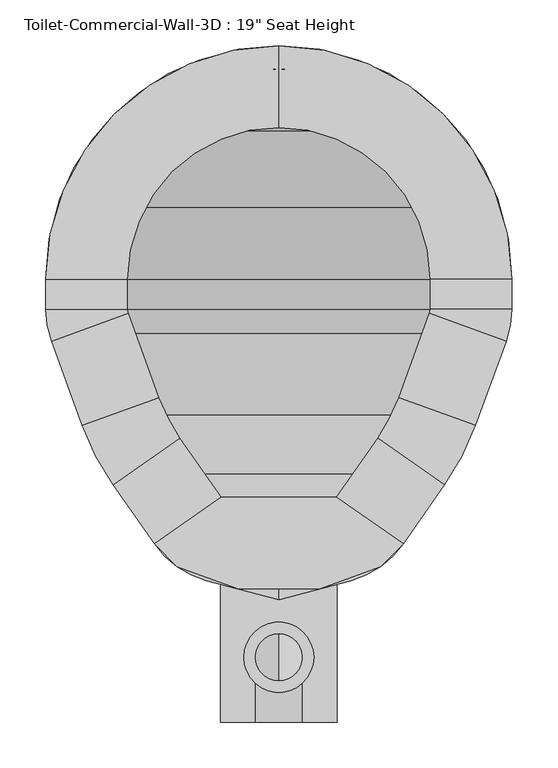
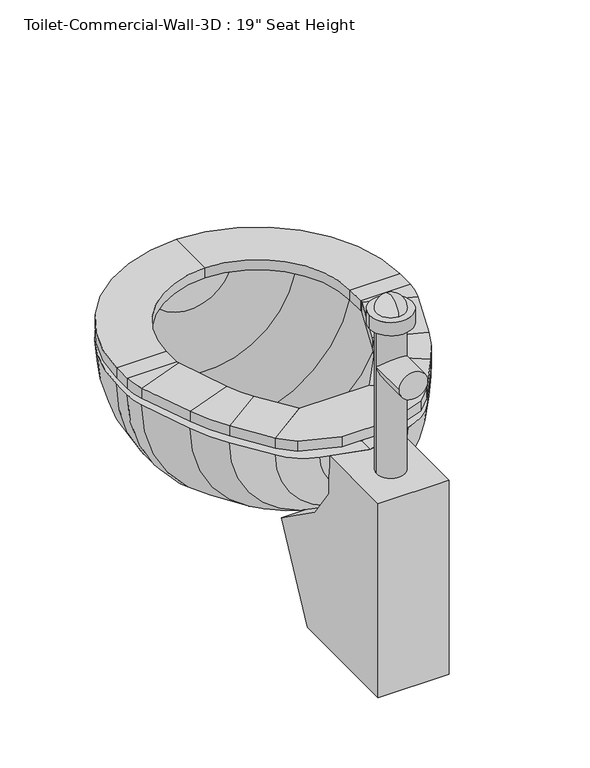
"""IFC4 building model written with IfcOpenShell, lengths in millimetres: flow terminal geometry."""

from ifc_helpers import new_model, si_unit, point, frame, frame_2d, origin, place, context, project, spatial, polyline, circle_curve, ellipse_curve, trimmed, segment, composite_curve, outline, extrude, source, transform, mapped, element, save
from ifc_brep_helpers import plane_surface, cylinder_surface, revolved_surface, advanced_brep


def flow_terminal_48090491(model_context):
    return source(origin(), model_context, "Body", "SolidModel", [
        extrude(outline(polyline([(467.7541169, 245.0347495), (540.5767337, 194.0438043), (515.6262519, 169.0933226), (449.563909, 145.0485961), (360.2423986, 145.0485961), (294.1800557, 169.0933226), (269.229574, 194.0438043), (342.0521907, 245.0347495), (467.7541169, 245.0347495)])), frame((0.0, 0.0, 457.2), z_axis=(0.0, 0.0, 1.0), x_axis=(1.0, 0.0, 0.0)), (0.0, 0.0, 1.0), 19.05),
        advanced_brep(
        [(467.7541169, 245.0347495, 457.2), (540.5767337, 194.0438043, 457.2), (540.5767337, 194.0438043, 476.25), (467.7541169, 245.0347495, 476.25), (512.8583992, 309.4503403, 457.2), (585.6810159, 258.4593951, 457.2), (585.6810159, 258.4593951, 476.25), (512.8583992, 309.4503403, 476.25), (619.360053, 323.1562234, 457.2), (535.821379, 353.5618141, 457.2), (619.360053, 323.1562234, 476.25), (535.821379, 353.5618141, 476.25), (569.2372501, 445.3711654, 457.2), (652.7759241, 414.9655747, 457.2), (652.7759241, 414.9655747, 476.25), (569.2372501, 445.3711654, 476.25), (658.9031538, 449.7148212, 457.2), (570.0031538, 449.7148212, 457.2), (658.9031538, 449.7148212, 476.25), (570.0031538, 449.7148212, 476.25), (570.0031538, 482.6, 457.2), (658.9031538, 482.6, 457.2), (658.9031538, 482.6, 476.25), (570.0031538, 482.6, 476.25), (404.9031538, 736.6, 457.2), (404.9031538, 647.7, 457.2), (404.9031538, 736.6, 476.25), (404.9031538, 647.7, 476.25), (150.9031538, 482.6, 457.2), (239.8031538, 482.6, 457.2), (150.9031538, 482.6, 476.25), (239.8031538, 482.6, 476.25), (239.8031538, 449.7148212, 457.2), (150.9031538, 449.7148212, 457.2), (150.9031538, 449.7148212, 476.25), (239.8031538, 449.7148212, 476.25), (157.0303835, 414.9655747, 457.2), (240.5690575, 445.3711654, 457.2), (157.0303835, 414.9655747, 476.25), (240.5690575, 445.3711654, 476.25), (273.9849286, 353.5618141, 457.2), (190.4462546, 323.1562234, 457.2), (190.4462546, 323.1562234, 476.25), (273.9849286, 353.5618141, 476.25), (224.1252917, 258.4593951, 457.2), (296.9479084, 309.4503403, 457.2), (224.1252917, 258.4593951, 476.25), (296.9479084, 309.4503403, 476.25), (342.0521907, 245.0347495, 457.2), (342.0521907, 245.0347495, 476.25), (269.229574, 194.0438043, 476.25), (269.229574, 194.0438043, 457.2)],
        [
            (0, 1),
            (1, 2),
            (2, 3),
            (3, 0),
            (0, 4),
            (4, 5),
            (5, 1),
            (5, 6),
            (6, 2),
            (6, 7),
            (7, 3),
            (7, 4),
            (8, 5, circle_curve(frame((356.8099347, 418.7166514, 457.2), z_axis=(0.0, 0.0, -1.0), x_axis=(0.81915204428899, -0.5735764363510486, 0.0)), 279.4)),
            (4, 9, circle_curve(frame((356.8099347, 418.7166514, 457.2), z_axis=(0.0, 0.0, 1.0), x_axis=(0.81915204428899, -0.5735764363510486, 0.0)), 190.5)),
            (9, 8),
            (10, 6, circle_curve(frame((356.8099347, 418.7166514, 476.25), z_axis=(0.0, 0.0, -1.0), x_axis=(0.81915204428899, -0.5735764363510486, 0.0)), 279.4)),
            (8, 10),
            (11, 7, circle_curve(frame((356.8099347, 418.7166514, 476.25), z_axis=(0.0, 0.0, -1.0), x_axis=(0.81915204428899, -0.5735764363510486, 0.0)), 190.5)),
            (10, 11),
            (11, 9),
            (9, 12),
            (12, 13),
            (13, 8),
            (13, 14),
            (14, 10),
            (14, 15),
            (15, 11),
            (15, 12),
            (16, 13, circle_curve(frame((557.3031538, 449.7148212, 457.2), z_axis=(0.0, 0.0, -1.0), x_axis=(0.9396926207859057, -0.3420201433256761, 0.0)), 101.6)),
            (12, 17, circle_curve(frame((557.3031538, 449.7148212, 457.2), z_axis=(0.0, 0.0, 1.0), x_axis=(0.9396926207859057, -0.3420201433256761, 0.0)), 12.7)),
            (17, 16),
            (18, 14, circle_curve(frame((557.3031538, 449.7148212, 476.25), z_axis=(0.0, 0.0, -1.0), x_axis=(0.9396926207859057, -0.3420201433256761, 0.0)), 101.6)),
            (16, 18),
            (19, 15, circle_curve(frame((557.3031538, 449.7148212, 476.25), z_axis=(0.0, 0.0, -1.0), x_axis=(0.9396926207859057, -0.3420201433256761, 0.0)), 12.7)),
            (18, 19),
            (19, 17),
            (17, 20),
            (20, 21),
            (21, 16),
            (21, 22),
            (22, 18),
            (22, 23),
            (23, 19),
            (23, 20),
            (24, 21, circle_curve(frame((404.9031538, 482.6, 457.2), z_axis=(0.0, 0.0, -1.0), x_axis=(1.0, 0.0, 0.0)), 254.0)),
            (20, 25, circle_curve(frame((404.9031538, 482.6, 457.2), z_axis=(0.0, 0.0, 1.0), x_axis=(1.0, 0.0, 0.0)), 165.1)),
            (25, 24),
            (26, 22, circle_curve(frame((404.9031538, 482.6, 476.25), z_axis=(0.0, 0.0, -1.0), x_axis=(1.0, 0.0, 0.0)), 254.0)),
            (24, 26),
            (27, 23, circle_curve(frame((404.9031538, 482.6, 476.25), z_axis=(0.0, 0.0, -1.0), x_axis=(1.0, 0.0, 0.0)), 165.1)),
            (26, 27),
            (27, 25),
            (28, 24, circle_curve(frame((404.9031538, 482.6, 457.2), z_axis=(0.0, 0.0, -1.0), x_axis=(0.0, 1.0, 0.0)), 254.0)),
            (25, 29, circle_curve(frame((404.9031538, 482.6, 457.2), z_axis=(0.0, 0.0, 1.0), x_axis=(0.0, 1.0, 0.0)), 165.1)),
            (29, 28),
            (30, 26, circle_curve(frame((404.9031538, 482.6, 476.25), z_axis=(0.0, 0.0, -1.0), x_axis=(0.0, 1.0, 0.0)), 254.0)),
            (28, 30),
            (31, 27, circle_curve(frame((404.9031538, 482.6, 476.25), z_axis=(0.0, 0.0, -1.0), x_axis=(0.0, 1.0, 0.0)), 165.1)),
            (30, 31),
            (31, 29),
            (29, 32),
            (32, 33),
            (33, 28),
            (33, 34),
            (34, 30),
            (34, 35),
            (35, 31),
            (35, 32),
            (36, 33, circle_curve(frame((252.5031538, 449.7148212, 457.2), z_axis=(0.0, 0.0, -1.0), x_axis=(-1.0, 0.0, 0.0)), 101.6)),
            (32, 37, circle_curve(frame((252.5031538, 449.7148212, 457.2), z_axis=(0.0, 0.0, 1.0), x_axis=(-1.0, 0.0, 0.0)), 12.7)),
            (37, 36),
            (38, 34, circle_curve(frame((252.5031538, 449.7148212, 476.25), z_axis=(0.0, 0.0, -1.0), x_axis=(-1.0, 0.0, 0.0)), 101.6)),
            (36, 38),
            (39, 35, circle_curve(frame((252.5031538, 449.7148212, 476.25), z_axis=(0.0, 0.0, -1.0), x_axis=(-1.0, 0.0, 0.0)), 12.7)),
            (38, 39),
            (39, 37),
            (37, 40),
            (40, 41),
            (41, 36),
            (41, 42),
            (42, 38),
            (42, 43),
            (43, 39),
            (43, 40),
            (44, 41, circle_curve(frame((452.9963729, 418.7166514, 457.2), z_axis=(0.0, 0.0, -1.0), x_axis=(-0.939692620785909, -0.3420201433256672, 0.0)), 279.4)),
            (40, 45, circle_curve(frame((452.9963729, 418.7166514, 457.2), z_axis=(0.0, 0.0, 1.0), x_axis=(-0.939692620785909, -0.3420201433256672, 0.0)), 190.5)),
            (45, 44),
            (46, 42, circle_curve(frame((452.9963729, 418.7166514, 476.25), z_axis=(0.0, 0.0, -1.0), x_axis=(-0.939692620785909, -0.3420201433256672, 0.0)), 279.4)),
            (44, 46),
            (47, 43, circle_curve(frame((452.9963729, 418.7166514, 476.25), z_axis=(0.0, 0.0, -1.0), x_axis=(-0.939692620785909, -0.3420201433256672, 0.0)), 190.5)),
            (46, 47),
            (47, 45),
            (48, 49),
            (49, 50),
            (50, 51),
            (51, 48),
            (45, 48),
            (51, 44),
            (50, 46),
            (49, 47),
        ],
        [
            plane_surface(frame((540.5767337, 194.0438043, 538.8995365), z_axis=(-0.5735764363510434, -0.8191520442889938, 0.0), x_axis=(0.8191520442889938, -0.5735764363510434, 0.0))),
            plane_surface(frame((467.7541169, 245.0347495, 457.2), z_axis=(0.0, 0.0, -1.0), x_axis=(0.5735764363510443, 0.8191520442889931, 0.0))),
            plane_surface(frame((540.5767337, 194.0438043, 457.2), z_axis=(0.8191520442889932, -0.5735764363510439, 0.0), x_axis=(0.5735764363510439, 0.8191520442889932, 0.0))),
            plane_surface(frame((540.5767337, 194.0438043, 476.25), z_axis=(0.0, 0.0, 1.0), x_axis=(0.5735764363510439, 0.8191520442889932, 0.0))),
            plane_surface(frame((467.7541169, 245.0347495, 476.25), z_axis=(-0.8191520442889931, 0.5735764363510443, 0.0), x_axis=(0.5735764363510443, 0.8191520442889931, 0.0))),
            plane_surface(frame((356.8099347, 418.7166514, 457.2), z_axis=(0.0, 0.0, -1.0), x_axis=(0.81915204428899, -0.5735764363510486, 0.0))),
            cylinder_surface(frame((356.8099347, 418.7166514, 444.5), z_axis=(0.0, 0.0, 1.0), x_axis=(0.81915204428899, -0.5735764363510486, 0.0)), 279.4),
            plane_surface(frame((356.8099347, 418.7166514, 476.25), z_axis=(0.0, 0.0, 1.0), x_axis=(0.81915204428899, -0.5735764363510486, 0.0))),
            revolved_surface(polyline([(512.8583991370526, 309.4503402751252, 476.25), (512.8583991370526, 309.4503402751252, 457.2)]), (356.8099347, 418.7166514, 444.5), (0.0, 0.0, 1.0)),
            plane_surface(frame((535.821379, 353.5618141, 457.2), z_axis=(0.0, 0.0, -1.0), x_axis=(0.34202014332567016, 0.9396926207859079, 0.0))),
            plane_surface(frame((619.360053, 323.1562234, 457.2), z_axis=(0.9396926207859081, -0.3420201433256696, 0.0), x_axis=(0.3420201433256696, 0.9396926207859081, 0.0))),
            plane_surface(frame((619.360053, 323.1562234, 476.25), z_axis=(0.0, 0.0, 1.0), x_axis=(0.3420201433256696, 0.9396926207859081, 0.0))),
            plane_surface(frame((535.821379, 353.5618141, 476.25), z_axis=(-0.9396926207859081, 0.34202014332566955, 0.0), x_axis=(0.34202014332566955, 0.9396926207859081, 0.0))),
            plane_surface(frame((557.3031538, 449.7148212, 457.2), z_axis=(0.0, 0.0, -1.0000000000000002), x_axis=(0.9396926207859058, -0.34202014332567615, 0.0))),
            cylinder_surface(frame((557.3031538, 449.7148212, 444.5), z_axis=(0.0, 0.0, 1.0), x_axis=(0.9396926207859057, -0.3420201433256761, 0.0)), 101.6),
            plane_surface(frame((557.3031538, 449.7148212, 476.25), z_axis=(0.0, 0.0, 1.0000000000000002), x_axis=(0.9396926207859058, -0.34202014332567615, 0.0))),
            revolved_surface(polyline([(569.237250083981, 445.3711653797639, 476.25), (569.237250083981, 445.3711653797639, 457.2)]), (557.3031538, 449.7148212, 444.5), (0.0, 0.0, 1.0)),
            plane_surface(frame((570.0031538, 449.7148212, 457.2), z_axis=(0.0, 0.0, -1.0), x_axis=(0.0, 1.0, 0.0))),
            plane_surface(frame((658.9031538, 449.7148212, 457.2), z_axis=(1.0, 0.0, 0.0), x_axis=(0.0, 1.0, 0.0))),
            plane_surface(frame((658.9031538, 449.7148212, 476.25), z_axis=(0.0, 0.0, 1.0), x_axis=(0.0, 1.0, 0.0))),
            plane_surface(frame((570.0031538, 449.7148212, 476.25), z_axis=(-1.0, 0.0, 0.0), x_axis=(0.0, 1.0, 0.0))),
            plane_surface(frame((404.9031538, 482.6, 457.2), z_axis=(0.0, 0.0, -1.0), x_axis=(1.0, 0.0, 0.0))),
            cylinder_surface(frame((404.9031538, 482.6, 444.5), z_axis=(0.0, 0.0, 1.0), x_axis=(1.0, 0.0, 0.0)), 254.0),
            plane_surface(frame((404.9031538, 482.6, 476.25), z_axis=(0.0, 0.0, 1.0), x_axis=(1.0, 0.0, 0.0))),
            revolved_surface(polyline([(570.0031538, 482.6, 476.25), (570.0031538, 482.6, 457.2)]), (404.9031538, 482.6, 444.5), (0.0, 0.0, 1.0)),
            plane_surface(frame((404.9031538, 482.6, 457.2), z_axis=(0.0, 0.0, -1.0), x_axis=(0.0, 1.0, 0.0))),
            cylinder_surface(frame((404.9031538, 482.6, 444.5), z_axis=(0.0, 0.0, 1.0), x_axis=(0.0, 1.0, 0.0)), 254.0),
            plane_surface(frame((404.9031538, 482.6, 476.25), z_axis=(0.0, 0.0, 1.0), x_axis=(0.0, 1.0, 0.0))),
            revolved_surface(polyline([(404.9031538, 647.7, 476.25), (404.9031538, 647.7, 457.2)]), (404.9031538, 482.6, 444.5), (0.0, 0.0, 1.0)),
            plane_surface(frame((239.8031538, 482.6, 457.2), z_axis=(0.0, 0.0, -1.0), x_axis=(0.0, -1.0, 0.0))),
            plane_surface(frame((150.9031538, 482.6, 457.2), z_axis=(-1.0, 0.0, 0.0), x_axis=(0.0, -1.0, 0.0))),
            plane_surface(frame((150.9031538, 482.6, 476.25), z_axis=(0.0, 0.0, 1.0), x_axis=(0.0, -1.0, 0.0))),
            plane_surface(frame((239.8031538, 482.6, 476.25), z_axis=(1.0, 0.0, 0.0), x_axis=(0.0, -1.0, 0.0))),
            plane_surface(frame((252.5031538, 449.7148212, 457.2), z_axis=(0.0, 0.0, -1.0), x_axis=(-1.0, 0.0, 0.0))),
            cylinder_surface(frame((252.5031538, 449.7148212, 444.5), z_axis=(0.0, 0.0, 1.0), x_axis=(-1.0, 0.0, 0.0)), 101.6),
            plane_surface(frame((252.5031538, 449.7148212, 476.25), z_axis=(0.0, 0.0, 1.0), x_axis=(-1.0, 0.0, 0.0))),
            revolved_surface(polyline([(239.80315380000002, 449.7148212, 476.25), (239.80315380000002, 449.7148212, 457.2)]), (252.5031538, 449.7148212, 444.5), (0.0, 0.0, 1.0)),
            plane_surface(frame((240.5690575, 445.3711654, 457.2), z_axis=(0.0, 0.0, -1.0000000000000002), x_axis=(0.3420201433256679, -0.9396926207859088, 0.0))),
            plane_surface(frame((157.0303835, 414.9655747, 457.2), z_axis=(-0.939692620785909, -0.34202014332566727, 0.0), x_axis=(0.34202014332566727, -0.939692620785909, 0.0))),
            plane_surface(frame((157.0303835, 414.9655747, 476.25), z_axis=(0.0, 0.0, 1.0000000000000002), x_axis=(0.34202014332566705, -0.9396926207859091, 0.0))),
            plane_surface(frame((240.5690575, 445.3711654, 476.25), z_axis=(0.9396926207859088, 0.3420201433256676, 0.0), x_axis=(0.3420201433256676, -0.9396926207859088, 0.0))),
            plane_surface(frame((452.9963729, 418.7166514, 457.2), z_axis=(0.0, 0.0, -1.0), x_axis=(-0.939692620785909, -0.3420201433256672, 0.0))),
            cylinder_surface(frame((452.9963729, 418.7166514, 444.5), z_axis=(0.0, 0.0, 1.0), x_axis=(-0.939692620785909, -0.3420201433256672, 0.0)), 279.4),
            plane_surface(frame((452.9963729, 418.7166514, 476.25), z_axis=(0.0, 0.0, 1.0), x_axis=(-0.939692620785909, -0.3420201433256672, 0.0))),
            revolved_surface(polyline([(273.98492864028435, 353.56181409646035, 476.25), (273.98492864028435, 353.56181409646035, 457.2)]), (452.9963729, 418.7166514, 444.5), (0.0, 0.0, 1.0)),
            plane_surface(frame((269.229574, 194.0438043, 350.1004635), z_axis=(0.5735764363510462, -0.8191520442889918, 0.0), x_axis=(0.8191520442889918, 0.5735764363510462, 0.0))),
            plane_surface(frame((296.9479084, 309.4503403, 457.2), z_axis=(0.0, 0.0, -1.0000000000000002), x_axis=(0.5735764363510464, -0.8191520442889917, 0.0))),
            plane_surface(frame((224.1252917, 258.4593951, 457.2), z_axis=(-0.8191520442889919, -0.5735764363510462, 0.0), x_axis=(0.5735764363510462, -0.8191520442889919, 0.0))),
            plane_surface(frame((224.1252917, 258.4593951, 476.25), z_axis=(0.0, 0.0, 1.0000000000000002), x_axis=(0.5735764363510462, -0.8191520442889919, 0.0))),
            plane_surface(frame((296.9479084, 309.4503403, 476.25), z_axis=(0.8191520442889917, 0.5735764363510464, 0.0), x_axis=(0.5735764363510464, -0.8191520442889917, 0.0))),
        ],
        [
            (0, [[1, 2, 3, 4]]),
            (1, [[-1, 5, 6, 7]]),
            (2, [[-2, -7, 8, 9]]),
            (3, [[-3, -9, 10, 11]]),
            (4, [[-4, -11, 12, -5]]),
            (5, [[13, -6, 14, 15]]),
            (6, [[16, -8, -13, 17]]),
            (7, [[18, -10, -16, 19]]),
            (8, [[-14, -12, -18, 20]]),
            (9, [[-15, 21, 22, 23]]),
            (10, [[-17, -23, 24, 25]]),
            (11, [[-19, -25, 26, 27]]),
            (12, [[-20, -27, 28, -21]]),
            (13, [[29, -22, 30, 31]]),
            (14, [[32, -24, -29, 33]]),
            (15, [[34, -26, -32, 35]]),
            (16, [[-30, -28, -34, 36]]),
            (17, [[-31, 37, 38, 39]]),
            (18, [[-33, -39, 40, 41]]),
            (19, [[-35, -41, 42, 43]]),
            (20, [[-36, -43, 44, -37]]),
            (21, [[45, -38, 46, 47]]),
            (22, [[48, -40, -45, 49]]),
            (23, [[50, -42, -48, 51]]),
            (24, [[-46, -44, -50, 52]]),
            (25, [[53, -47, 54, 55]]),
            (26, [[56, -49, -53, 57]]),
            (27, [[58, -51, -56, 59]]),
            (28, [[-54, -52, -58, 60]]),
            (29, [[-55, 61, 62, 63]]),
            (30, [[-57, -63, 64, 65]]),
            (31, [[-59, -65, 66, 67]]),
            (32, [[-60, -67, 68, -61]]),
            (33, [[69, -62, 70, 71]]),
            (34, [[72, -64, -69, 73]]),
            (35, [[74, -66, -72, 75]]),
            (36, [[-70, -68, -74, 76]]),
            (37, [[-71, 77, 78, 79]]),
            (38, [[-73, -79, 80, 81]]),
            (39, [[-75, -81, 82, 83]]),
            (40, [[-76, -83, 84, -77]]),
            (41, [[85, -78, 86, 87]]),
            (42, [[88, -80, -85, 89]]),
            (43, [[90, -82, -88, 91]]),
            (44, [[-86, -84, -90, 92]]),
            (45, [[93, 94, 95, 96]]),
            (46, [[-87, 97, -96, 98]]),
            (47, [[-89, -98, -95, 99]]),
            (48, [[-91, -99, -94, 100]]),
            (49, [[-92, -100, -93, -97]]),
        ],
    ),
        advanced_brep(
        [(491.7762702, 721.2819257, 444.5), (404.9031538, 736.6, 444.5), (404.9031538, 711.2, 444.5), (483.0889586, 697.4137331, 444.5), (566.547764, 644.2446102, 444.5), (619.7168869, 560.7858048, 444.5), (633.5031538, 482.6, 444.5), (633.5031538, 449.7148212, 444.5), (628.9077315, 423.6528863, 444.5), (596.6355667, 334.9858422, 444.5), (562.9565296, 270.2890139, 444.5), (525.0728964, 216.1855786, 444.5), (468.1430637, 176.3228806, 444.5), (404.9031538, 159.3777978, 444.5), (404.9031538, 133.0817829, 444.5), (483.6469009, 154.1811063, 444.5), (540.5767337, 194.0438043, 444.5), (585.6810159, 258.4593951, 444.5), (619.360053, 323.1562234, 444.5), (652.7759241, 414.9655747, 444.5), (658.9031538, 449.7148212, 444.5), (658.9031538, 482.6, 444.5), (643.5850795, 569.4731164, 444.5), (584.5082762, 662.2051224, 444.5), (318.0300374, 721.2819257, 444.5), (225.2980314, 662.2051224, 444.5), (166.2212281, 569.4731164, 444.5), (150.9031538, 482.6, 444.5), (150.9031538, 449.7148212, 444.5), (157.0303835, 414.9655747, 444.5), (190.4462546, 323.1562234, 444.5), (224.1252917, 258.4593951, 444.5), (269.229574, 194.0438043, 444.5), (326.1594067, 154.1811063, 444.5), (341.663244, 176.3228806, 444.5), (284.7334112, 216.1855786, 444.5), (246.849778, 270.2890139, 444.5), (213.1707409, 334.9858422, 444.5), (180.8985761, 423.6528863, 444.5), (176.3031538, 449.7148212, 444.5), (176.3031538, 482.6, 444.5), (190.0894207, 560.7858048, 444.5), (243.2585436, 644.2446102, 444.5), (326.7173491, 697.4137331, 444.5)],
        [
            (0, 1, circle_curve(frame((404.9031538, 482.6, 444.5), z_axis=(0.0, 0.0, 1.0), x_axis=(1.0, 0.0, 0.0)), 254.0)),
            (1, 2),
            (2, 3, circle_curve(frame((404.9031538, 482.6, 444.5), z_axis=(0.0, 0.0, -1.0), x_axis=(1.0, 0.0, 0.0)), 228.6)),
            (3, 4, circle_curve(frame((404.9031538, 482.6, 444.5), z_axis=(0.0, 0.0, -1.0), x_axis=(1.0, 0.0, 0.0)), 228.6)),
            (4, 5, circle_curve(frame((404.9031538, 482.6, 444.5), z_axis=(0.0, 0.0, -1.0), x_axis=(1.0, 0.0, 0.0)), 228.6)),
            (5, 6, circle_curve(frame((404.9031538, 482.6, 444.5), z_axis=(0.0, 0.0, -1.0), x_axis=(1.0, 0.0, 0.0)), 228.6)),
            (6, 7),
            (7, 8, circle_curve(frame((557.3031538, 449.7148212, 444.5), z_axis=(0.0, 0.0, -1.0), x_axis=(1.0, 0.0, 0.0)), 76.2)),
            (8, 9),
            (9, 10, circle_curve(frame((334.0854485, 430.5462703, 444.5), z_axis=(0.0, 0.0, -1.0), x_axis=(1.0, 0.0, 0.0)), 279.4)),
            (10, 11),
            (11, 12, circle_curve(frame((441.8470487, 274.4609446, 444.5), z_axis=(0.0, 0.0, -1.0), x_axis=(1.0, 0.0, 0.0)), 101.6)),
            (12, 13),
            (13, 14),
            (14, 15),
            (15, 16, circle_curve(frame((457.350886, 252.3191703, 444.5), z_axis=(0.0, 0.0, 1.0), x_axis=(1.0, 0.0, 0.0)), 101.6)),
            (16, 17),
            (17, 18, circle_curve(frame((356.8099347, 418.7166514, 444.5), z_axis=(0.0, 0.0, 1.0), x_axis=(1.0, 0.0, 0.0)), 279.4)),
            (18, 19),
            (19, 20, circle_curve(frame((557.3031538, 449.7148212, 444.5), z_axis=(0.0, 0.0, 1.0), x_axis=(1.0, 0.0, 0.0)), 101.6)),
            (20, 21),
            (21, 22, circle_curve(frame((404.9031538, 482.6, 444.5), z_axis=(0.0, 0.0, 1.0), x_axis=(1.0, 0.0, 0.0)), 254.0)),
            (22, 23, circle_curve(frame((404.9031538, 482.6, 444.5), z_axis=(0.0, 0.0, 1.0), x_axis=(1.0, 0.0, 0.0)), 254.0)),
            (23, 0, circle_curve(frame((404.9031538, 482.6, 444.5), z_axis=(0.0, 0.0, 1.0), x_axis=(1.0, 0.0, 0.0)), 254.0)),
            (24, 25, circle_curve(frame((404.9031538, 482.6, 444.5), z_axis=(0.0, 0.0, 1.0), x_axis=(-1.0, 0.0, 0.0)), 254.0)),
            (25, 26, circle_curve(frame((404.9031538, 482.6, 444.5), z_axis=(0.0, 0.0, 1.0), x_axis=(-1.0, 0.0, 0.0)), 254.0)),
            (26, 27, circle_curve(frame((404.9031538, 482.6, 444.5), z_axis=(0.0, 0.0, 1.0), x_axis=(-1.0, 0.0, 0.0)), 254.0)),
            (27, 28),
            (28, 29, circle_curve(frame((252.5031538, 449.7148212, 444.5), z_axis=(0.0, 0.0, 1.0), x_axis=(-1.0, 0.0, 0.0)), 101.6)),
            (29, 30),
            (30, 31, circle_curve(frame((452.9963729, 418.7166514, 444.5), z_axis=(0.0, 0.0, 1.0), x_axis=(-1.0, 0.0, 0.0)), 279.4)),
            (31, 32),
            (32, 33, circle_curve(frame((352.4554217, 252.3191703, 444.5), z_axis=(0.0, 0.0, 1.0), x_axis=(-1.0, 0.0, 0.0)), 101.6)),
            (33, 14),
            (13, 34),
            (34, 35, circle_curve(frame((367.9592589, 274.4609446, 444.5), z_axis=(0.0, 0.0, -1.0), x_axis=(-1.0, 0.0, 0.0)), 101.6)),
            (35, 36),
            (36, 37, circle_curve(frame((475.7208592, 430.5462703, 444.5), z_axis=(0.0, 0.0, -1.0), x_axis=(-1.0, 0.0, 0.0)), 279.4)),
            (37, 38),
            (38, 39, circle_curve(frame((252.5031538, 449.7148212, 444.5), z_axis=(0.0, 0.0, -1.0), x_axis=(-1.0, 0.0, 0.0)), 76.2)),
            (39, 40),
            (40, 41, circle_curve(frame((404.9031538, 482.6, 444.5), z_axis=(0.0, 0.0, -1.0), x_axis=(-1.0, 0.0, 0.0)), 228.6)),
            (41, 42, circle_curve(frame((404.9031538, 482.6, 444.5), z_axis=(0.0, 0.0, -1.0), x_axis=(-1.0, 0.0, 0.0)), 228.6)),
            (42, 43, circle_curve(frame((404.9031538, 482.6, 444.5), z_axis=(0.0, 0.0, -1.0), x_axis=(-1.0, 0.0, 0.0)), 228.6)),
            (43, 2, circle_curve(frame((404.9031538, 482.6, 444.5), z_axis=(0.0, 0.0, -1.0), x_axis=(-1.0, 0.0, 0.0)), 228.6)),
            (1, 24, circle_curve(frame((404.9031538, 482.6, 444.5), z_axis=(0.0, 0.0, 1.0), x_axis=(-1.0, 0.0, 0.0)), 254.0)),
            (0, 24, circle_curve(frame((404.9031538, 721.2819257, 444.5), z_axis=(0.0, 1.0, 0.0), x_axis=(1.0, 0.0, 0.0)), 86.8731164)),
            (43, 3, circle_curve(frame((404.9031538, 697.4137331, 444.5), z_axis=(0.0, -1.0, 0.0), x_axis=(1.0, 0.0, 0.0)), 78.1858048)),
            (42, 4, circle_curve(frame((404.9031538, 644.2446102, 444.5), z_axis=(0.0, -1.0, 0.0), x_axis=(1.0, 0.0, 0.0)), 161.6446102)),
            (41, 5, circle_curve(frame((404.9031538, 560.7858048, 444.5), z_axis=(0.0, -1.0, 0.0), x_axis=(1.0, 0.0, 0.0)), 214.8137331)),
            (40, 6, circle_curve(frame((404.9031538, 482.6, 444.5), z_axis=(0.0, -1.0, 0.0), x_axis=(1.0, 0.0, 0.0)), 228.6)),
            (39, 7, circle_curve(frame((404.9031538, 449.7148212, 444.5), z_axis=(0.0, -1.0, 0.0), x_axis=(1.0, 0.0, 0.0)), 228.6)),
            (38, 8, circle_curve(frame((404.9031538, 423.6528863, 444.5), z_axis=(0.0, -1.0, 0.0), x_axis=(1.0, 0.0, 0.0)), 224.0045777)),
            (37, 9, circle_curve(frame((404.9031538, 334.9858422, 444.5), z_axis=(0.0, -1.0, 0.0), x_axis=(1.0, 0.0, 0.0)), 191.7324129)),
            (36, 10, circle_curve(frame((404.9031538, 270.2890139, 444.5), z_axis=(0.0, -1.0, 0.0), x_axis=(1.0, 0.0, 0.0)), 158.0533758)),
            (35, 11, circle_curve(frame((404.9031538, 216.1855786, 444.5), z_axis=(0.0, -1.0, 0.0), x_axis=(1.0, 0.0, 0.0)), 120.1697426)),
            (34, 12, circle_curve(frame((404.9031538, 176.3228806, 444.5), z_axis=(0.0, -1.0, 0.0), x_axis=(1.0, 0.0, 0.0)), 63.2399099)),
            (33, 15, circle_curve(frame((404.9031538, 154.1811063, 444.5), z_axis=(0.0, -1.0, 0.0), x_axis=(1.0, 0.0, 0.0)), 78.7437471)),
            (32, 16, circle_curve(frame((404.9031538, 194.0438043, 444.5), z_axis=(0.0, -1.0, 0.0), x_axis=(1.0, 0.0, 0.0)), 135.6735798)),
            (31, 17, circle_curve(frame((404.9031538, 258.4593951, 444.5), z_axis=(0.0, -1.0, 0.0), x_axis=(1.0, 0.0, 0.0)), 180.7778621)),
            (30, 18, circle_curve(frame((404.9031538, 323.1562234, 444.5), z_axis=(0.0, -1.0, 0.0), x_axis=(1.0, 0.0, 0.0)), 214.4568992)),
            (29, 19, circle_curve(frame((404.9031538, 414.9655747, 444.5), z_axis=(0.0, -1.0, 0.0), x_axis=(1.0, 0.0, 0.0)), 247.8727703)),
            (28, 20, circle_curve(frame((404.9031538, 449.7148212, 444.5), z_axis=(0.0, -1.0, 0.0), x_axis=(1.0, 0.0, 0.0)), 254.0)),
            (27, 21, circle_curve(frame((404.9031538, 482.6, 444.5), z_axis=(0.0, -1.0, 0.0), x_axis=(1.0, 0.0, 0.0)), 254.0)),
            (26, 22, circle_curve(frame((404.9031538, 569.4731164, 444.5), z_axis=(0.0, -1.0, 0.0), x_axis=(1.0, 0.0, 0.0)), 238.6819257)),
            (25, 23, circle_curve(frame((404.9031538, 662.2051224, 444.5), z_axis=(0.0, -1.0, 0.0), x_axis=(1.0, 0.0, 0.0)), 179.6051224)),
        ],
        [
            plane_surface(frame((404.9031538, 841.8102448, 444.5), z_axis=(0.0, 0.0, 1.0), x_axis=(1.0, 0.0, 0.0))),
            plane_surface(frame((404.9031538, 841.8102448, 444.5), z_axis=(0.0, 0.0, 1.0), x_axis=(-1.0, 0.0, 0.0))),
            revolved_surface(trimmed(ellipse_curve(frame((404.9031538, 482.6, 444.5), z_axis=(0.0, 0.0, 1.0), x_axis=(1.0, 0.0, 0.0)), 254.0, 254.0), [point((491.7762702, 721.2819257, 444.5))], [point((404.9031538, 736.6, 444.5))], True, "CARTESIAN"), (404.9031538, 841.8102448, 444.5), (0.0, 1.0, 0.0)),
            revolved_surface(trimmed(ellipse_curve(frame((404.9031538, 482.6, 444.5), z_axis=(0.0, 0.0, -1.0), x_axis=(1.0, 0.0, 0.0)), 228.6, 228.6), [point((404.9031538, 711.2, 444.5))], [point((483.0889586, 697.4137331, 444.5))], True, "CARTESIAN"), (404.9031538, 841.8102448, 444.5), (0.0, 1.0, 0.0)),
            revolved_surface(trimmed(ellipse_curve(frame((404.9031538, 482.6, 444.5), z_axis=(0.0, 0.0, -1.0), x_axis=(1.0, 0.0, 0.0)), 228.6, 228.6), [point((483.0889586, 697.4137331, 444.5))], [point((566.547764, 644.2446102, 444.5))], True, "CARTESIAN"), (404.9031538, 841.8102448, 444.5), (0.0, 1.0, 0.0)),
            revolved_surface(trimmed(ellipse_curve(frame((404.9031538, 482.6, 444.5), z_axis=(0.0, 0.0, -1.0), x_axis=(1.0, 0.0, 0.0)), 228.6, 228.6), [point((566.547764, 644.2446102, 444.5))], [point((619.7168869, 560.7858048, 444.5))], True, "CARTESIAN"), (404.9031538, 841.8102448, 444.5), (0.0, 1.0, 0.0)),
            revolved_surface(trimmed(ellipse_curve(frame((404.9031538, 482.6, 444.5), z_axis=(0.0, 0.0, -1.0), x_axis=(1.0, 0.0, 0.0)), 228.6, 228.6), [point((619.7168869, 560.7858048, 444.5))], [point((633.5031538, 482.6, 444.5))], True, "CARTESIAN"), (404.9031538, 841.8102448, 444.5), (0.0, 1.0, 0.0)),
            revolved_surface(polyline([(633.5031538, 482.6, 444.5), (633.5031538, 449.7148212, 444.5)]), (404.9031538, 841.8102448, 444.5), (0.0, 1.0, 0.0)),
            revolved_surface(trimmed(ellipse_curve(frame((557.3031538, 449.7148212, 444.5), z_axis=(0.0, 0.0, -1.0), x_axis=(1.0, 0.0, 0.0)), 76.2, 76.2), [point((633.5031538, 449.7148212, 444.5))], [point((628.9077315, 423.6528863, 444.5))], True, "CARTESIAN"), (404.9031538, 841.8102448, 444.5), (0.0, 1.0, 0.0)),
            revolved_surface(polyline([(628.9077315, 423.6528863, 444.5), (596.6355667, 334.9858422, 444.5)]), (404.9031538, 841.8102448, 444.5), (0.0, 1.0, 0.0)),
            revolved_surface(trimmed(ellipse_curve(frame((334.0854485, 430.5462703, 444.5), z_axis=(0.0, 0.0, -1.0), x_axis=(1.0, 0.0, 0.0)), 279.4, 279.4), [point((596.6355667, 334.9858422, 444.5))], [point((562.9565296, 270.2890139, 444.5))], True, "CARTESIAN"), (404.9031538, 841.8102448, 444.5), (0.0, 1.0, 0.0)),
            revolved_surface(polyline([(562.9565296, 270.2890139, 444.5), (525.0728964, 216.1855786, 444.5)]), (404.9031538, 841.8102448, 444.5), (0.0, 1.0, 0.0)),
            revolved_surface(trimmed(ellipse_curve(frame((441.8470487, 274.4609446, 444.5), z_axis=(0.0, 0.0, -1.0), x_axis=(1.0, 0.0, 0.0)), 101.6, 101.6), [point((525.0728964, 216.1855786, 444.5))], [point((468.1430637, 176.3228806, 444.5))], True, "CARTESIAN"), (404.9031538, 841.8102448, 444.5), (0.0, 1.0, 0.0)),
            revolved_surface(polyline([(468.1430637, 176.3228806, 444.5), (404.9031538, 159.3777978, 444.5)]), (404.9031538, 841.8102448, 444.5), (0.0, 1.0, 0.0)),
            revolved_surface(polyline([(404.9031538, 133.0817829, 444.5), (483.6469009, 154.1811063, 444.5)]), (404.9031538, 841.8102448, 444.5), (0.0, 1.0, 0.0)),
            revolved_surface(trimmed(ellipse_curve(frame((457.350886, 252.3191703, 444.5), z_axis=(0.0, 0.0, 1.0), x_axis=(1.0, 0.0, 0.0)), 101.6, 101.6), [point((483.6469009, 154.1811063, 444.5))], [point((540.5767337, 194.0438043, 444.5))], True, "CARTESIAN"), (404.9031538, 841.8102448, 444.5), (0.0, 1.0, 0.0)),
            revolved_surface(polyline([(540.5767337, 194.0438043, 444.5), (585.6810159, 258.4593951, 444.5)]), (404.9031538, 841.8102448, 444.5), (0.0, 1.0, 0.0)),
            revolved_surface(trimmed(ellipse_curve(frame((356.8099347, 418.7166514, 444.5), z_axis=(0.0, 0.0, 1.0), x_axis=(1.0, 0.0, 0.0)), 279.4, 279.4), [point((585.6810159, 258.4593951, 444.5))], [point((619.360053, 323.1562234, 444.5))], True, "CARTESIAN"), (404.9031538, 841.8102448, 444.5), (0.0, 1.0, 0.0)),
            revolved_surface(polyline([(619.360053, 323.1562234, 444.5), (652.7759241, 414.9655747, 444.5)]), (404.9031538, 841.8102448, 444.5), (0.0, 1.0, 0.0)),
            revolved_surface(trimmed(ellipse_curve(frame((557.3031538, 449.7148212, 444.5), z_axis=(0.0, 0.0, 1.0), x_axis=(1.0, 0.0, 0.0)), 101.6, 101.6), [point((652.7759241, 414.9655747, 444.5))], [point((658.9031538, 449.7148212, 444.5))], True, "CARTESIAN"), (404.9031538, 841.8102448, 444.5), (0.0, 1.0, 0.0)),
            cylinder_surface(frame((404.9031538, 841.8102448, 444.5), z_axis=(0.0, 1.0, 0.0), x_axis=(1.0, 0.0, 0.0)), 254.0),
            revolved_surface(trimmed(ellipse_curve(frame((404.9031538, 482.6, 444.5), z_axis=(0.0, 0.0, 1.0), x_axis=(1.0, 0.0, 0.0)), 254.0, 254.0), [point((658.9031538, 482.6, 444.5))], [point((643.5850795, 569.4731164, 444.5))], True, "CARTESIAN"), (404.9031538, 841.8102448, 444.5), (0.0, 1.0, 0.0)),
            revolved_surface(trimmed(ellipse_curve(frame((404.9031538, 482.6, 444.5), z_axis=(0.0, 0.0, 1.0), x_axis=(1.0, 0.0, 0.0)), 254.0, 254.0), [point((643.5850795, 569.4731164, 444.5))], [point((584.5082762, 662.2051224, 444.5))], True, "CARTESIAN"), (404.9031538, 841.8102448, 444.5), (0.0, 1.0, 0.0)),
            revolved_surface(trimmed(ellipse_curve(frame((404.9031538, 482.6, 444.5), z_axis=(0.0, 0.0, 1.0), x_axis=(1.0, 0.0, 0.0)), 254.0, 254.0), [point((584.5082762, 662.2051224, 444.5))], [point((491.7762702, 721.2819257, 444.5))], True, "CARTESIAN"), (404.9031538, 841.8102448, 444.5), (0.0, 1.0, 0.0)),
        ],
        [
            (0, [[1, 2, 3, 4, 5, 6, 7, 8, 9, 10, 11, 12, 13, 14, 15, 16, 17, 18, 19, 20, 21, 22, 23, 24]]),
            (1, [[25, 26, 27, 28, 29, 30, 31, 32, 33, 34, -14, 35, 36, 37, 38, 39, 40, 41, 42, 43, 44, 45, -2, 46]]),
            (2, [[-1, 47, -46]]),
            (3, [[48, -3, -45]]),
            (4, [[49, -4, -48, -44]]),
            (5, [[50, -5, -49, -43]]),
            (6, [[51, -6, -50, -42]]),
            (7, [[52, -7, -51, -41]]),
            (8, [[53, -8, -52, -40]]),
            (9, [[54, -9, -53, -39]]),
            (10, [[55, -10, -54, -38]]),
            (11, [[56, -11, -55, -37]]),
            (12, [[57, -12, -56, -36]]),
            (13, [[-13, -57, -35]]),
            (14, [[58, -15, -34]]),
            (15, [[59, -16, -58, -33]]),
            (16, [[60, -17, -59, -32]]),
            (17, [[61, -18, -60, -31]]),
            (18, [[62, -19, -61, -30]]),
            (19, [[63, -20, -62, -29]]),
            (20, [[64, -21, -63, -28]]),
            (21, [[65, -22, -64, -27]]),
            (22, [[66, -23, -65, -26]]),
            (23, [[-47, -24, -66, -25]]),
        ],
    ),
        advanced_brep(
        [(404.9031538, 44.9176912, 749.3), (404.9031538, 96.1528563, 749.3), (404.9031538, 70.5352737, 774.9175826), (404.9031538, 70.5352737, 749.3)],
        [
            (0, 1, circle_curve(frame((404.9031538, 70.5352737, 749.3), z_axis=(0.0, 0.0, 1.0), x_axis=(0.0, 1.0, 0.0)), 25.6175826)),
            (1, 2, circle_curve(frame((404.9031538, 70.5352737, 749.3), z_axis=(1.0, 0.0, 0.0), x_axis=(0.0, -1.0, 0.0)), 25.6175826)),
            (2, 0, circle_curve(frame((404.9031538, 70.5352737, 749.3), z_axis=(1.0, 0.0, 0.0), x_axis=(0.0, 1.0, 0.0)), 25.6175826)),
            (1, 0, circle_curve(frame((404.9031538, 70.5352737, 749.3), z_axis=(0.0, 0.0, 1.0), x_axis=(0.0, 1.0, 0.0)), 25.6175826)),
            (3, 1),
            (0, 3),
        ],
        [
            revolved_surface(trimmed(ellipse_curve(frame((404.9031538, 70.5352737, 749.3), z_axis=(-1.0, 0.0, 0.0), x_axis=(0.0, -1.0, 0.0)), 25.6175826, 25.6175826), [point((404.9031538, 70.5352737, 774.9175826))], [point((404.9031538, 96.1528563, 749.3))], True, "CARTESIAN"), (404.9031538, 70.5352737, 813.9277273), (0.0, 0.0, -1.0)),
            plane_surface(frame((404.9031538, 70.5352737, 749.3), z_axis=(0.0, 0.0, -1.0), x_axis=(0.0, 1.0, 0.0))),
        ],
        [
            (0, [[1, 2, 3]]),
            (0, [[4, -3, -2]]),
            (1, [[5, -1, 6]]),
            (1, [[-6, -4, -5]]),
        ],
    ),
        extrude(outline(composite_curve([segment(trimmed(circle_curve(frame_2d((404.9031538, 70.5352737)), 38.1), [point((366.8031538, 70.5352737))], [point((443.0031538, 70.5352737))], False, "CARTESIAN"), True, "CONTINUOUS"), segment(trimmed(circle_curve(frame_2d((404.9031538, 70.5352737)), 38.1), [point((443.0031538, 70.5352737))], [point((366.8031538, 70.5352737))], False, "CARTESIAN"), True, "CONTINUOUS")], self_intersect=False)), frame((0.0, 0.0, 723.9), z_axis=(0.0, 0.0, 1.0), x_axis=(1.0, 0.0, 0.0)), (0.0, 0.0, 1.0), 25.4),
        extrude(outline(composite_curve([segment(trimmed(circle_curve(frame_2d((645.8113641, 404.9031538)), 25.4), [point((645.8113641, 379.5031538))], [point((645.8113641, 430.3031538))], False, "CARTESIAN"), True, "CONTINUOUS"), segment(trimmed(circle_curve(frame_2d((645.8113641, 404.9031538)), 25.4), [point((645.8113641, 430.3031538))], [point((645.8113641, 379.5031538))], False, "CARTESIAN"), True, "CONTINUOUS")], self_intersect=False)), frame((0.0, 0.0, 0.0), z_axis=(0.0, 1.0, 0.0), x_axis=(0.0, 0.0, 1.0)), (0.0, 0.0, 1.0), 70.64375),
        extrude(outline(polyline([(152.8037941, 444.5), (152.8037941, 370.896452), (196.5103185, 308.4770663), (300.5426282, 235.6328588), (220.0454017, 76.2), (0.0, 76.2), (0.0, 444.5), (152.8037941, 444.5)])), frame((341.4031538, 0.0, 0.0), z_axis=(1.0, 0.0, 0.0), x_axis=(0.0, 1.0, 0.0)), (0.0, 0.0, 1.0), 127.0),
        extrude(outline(composite_curve([segment(trimmed(circle_curve(frame_2d((404.9031538, 70.5352737)), 25.4), [point((379.5031538, 70.5352737))], [point((430.3031538, 70.5352737))], False, "CARTESIAN"), True, "CONTINUOUS"), segment(trimmed(circle_curve(frame_2d((404.9031538, 70.5352737)), 25.4), [point((430.3031538, 70.5352737))], [point((379.5031538, 70.5352737))], False, "CARTESIAN"), True, "CONTINUOUS")], self_intersect=False)), frame((0.0, 0.0, 444.5), z_axis=(0.0, 0.0, 1.0), x_axis=(1.0, 0.0, 0.0)), (0.0, 0.0, 1.0), 279.4),
    ])


if __name__ == "__main__":
    model = new_model("IFC4")
    model_context = context("Model", 3, world=origin())
    ifc_project = project(units=[si_unit("LENGTHUNIT", "METRE", prefix="MILLI")], contexts=[model_context])
    site = spatial("IfcSite", under=ifc_project)
    building = spatial("IfcBuilding", under=site)
    placement = place(None, origin())
    flow_terminal_shape = flow_terminal_48090491(model_context)
    element("IfcFlowTerminal", 1, ObjectType="Toilet-Commercial-Wall-3D : 19\" Seat Height", at=placement, inside=building, context=model_context, shape_type="MappedRepresentation", body=[
        mapped(flow_terminal_shape, transform((0.0, 0.0, 0.0), x_axis=(1.0, 0.0, 0.0), y_axis=(0.0, 1.0, 0.0), z_axis=(0.0, 0.0, 1.0))),
    ])
    save(model, "model.ifc")
